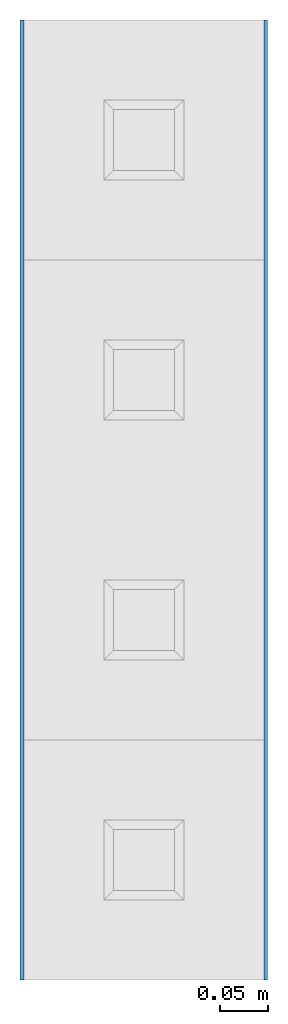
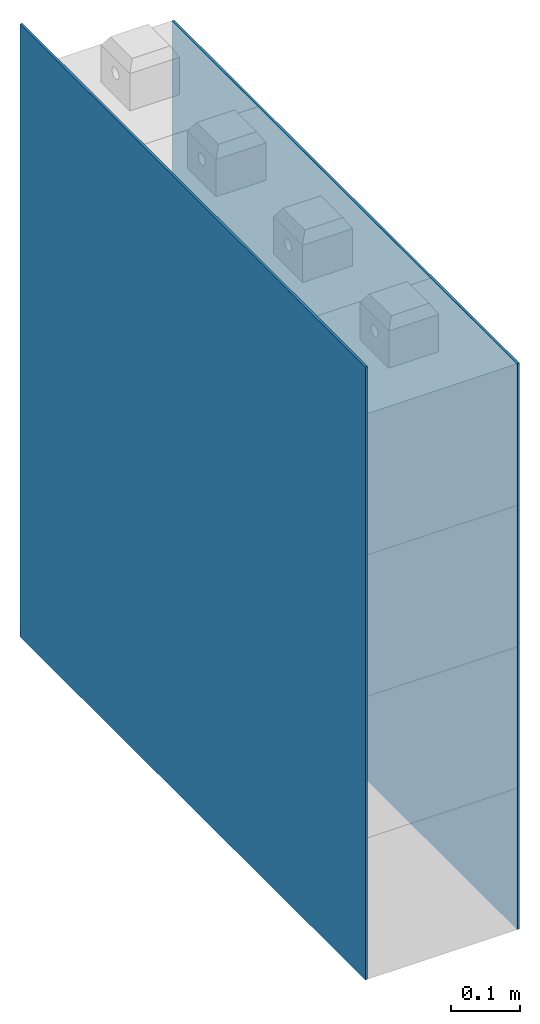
# One storey, incomplete: 2 walls.
"""IFC4 building model written with IfcOpenShell, lengths in centimetres."""

from ifc_helpers import new_model, si_unit, direction, frame, origin, place, context, subcontext, project, spatial, indexed_curve, outline, extrude, material, constituent, constituent_set, type_object, element, save


model = new_model("IFC4")

# Units and contexts
model_context = context("Model", 3, precision=0.001, world=origin(), true_north=direction((0.0, 1.0)))
body_context = subcontext(model_context, "Body", "Model", "MODEL_VIEW")
ifc_project = project(units=[si_unit("LENGTHUNIT", "METRE", prefix="CENTI"), si_unit("AREAUNIT", "SQUARE_METRE"), si_unit("VOLUMEUNIT", "CUBIC_METRE")], contexts=[model_context])

# Site, building, storey
site_placement = place(None, origin())
site = spatial("IfcSite", under=ifc_project, at=site_placement, Name="Default", CompositionType="ELEMENT")
building_placement = place(site_placement, origin())
building = spatial("IfcBuilding", under=site, at=building_placement, CompositionType="ELEMENT")
storey_placement = place(building_placement, frame((0.0, 0.0, -12.0)))
storey = spatial("IfcBuildingStorey", under=building, at=storey_placement, Name="L00__ABOVE Slab", CompositionType="ELEMENT", Elevation=-12.000000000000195)

# Walls
ifc_material = material(Name="_WLL & CLG FINISHES__Spray-cork", Category="플라스틱")
ifc_constituent = constituent(ifc_material, Name="_WLL & CLG FINISHES__Spray-cork", Category="플라스틱", fraction=1.0)
ifc_constituent_set = constituent_set(constituents=[ifc_constituent], Name="Basic Wall:wll__INT FINISH__Spritzkork 0.4cm__TriqBriq, TN.1")
wall_type = type_object("IfcWallType", Name="Walls : Basic Wall : wll__INT FINISH__Spritzkork 0.4cm__TriqBriq, TN.1", PredefinedType="STANDARD", material=ifc_constituent_set)
wall_1_placement = place(storey_placement, frame((4643.349456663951, 1710.4017723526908, 10.0), z_axis=(0.0, 0.0, 1.0), x_axis=(0.0, -1.0, 0.0)))
element("IfcWall", 1, at=wall_1_placement, inside=storey, type_object=wall_type, material=ifc_constituent_set, Name="Walls : Basic Wall : wll__INT FINISH__Spritzkork 0.4cm__TriqBriq, TN.1", PredefinedType="NOTDEFINED", context=body_context, shape_type="SweptSolid", body=[
    extrude(outline(indexed_curve([(100.00000000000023, 0.2000000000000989), (-2.8876456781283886e-16, 0.19999999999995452), (2.8876456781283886e-16, -0.19999999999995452), (100.00000000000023, -0.19999999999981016), (100.00000000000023, 0.2000000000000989)], self_intersect=False)), origin(), (0.0, 0.0, 1.0), 100.00000000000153),
])
wall_2_placement = place(storey_placement, frame((4617.94945666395, 1710.4017723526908, 10.0), z_axis=(0.0, 0.0, 1.0), x_axis=(0.0, -1.0, 0.0)))
element("IfcWall", 2, at=wall_2_placement, inside=storey, type_object=wall_type, material=ifc_constituent_set, Name="Walls : Basic Wall : wll__INT FINISH__Spritzkork 0.4cm__TriqBriq, TN.1", PredefinedType="NOTDEFINED", context=body_context, shape_type="SweptSolid", body=[
    extrude(outline(indexed_curve([(100.00000000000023, 0.2000000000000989), (-2.8876456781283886e-16, 0.19999999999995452), (2.8876456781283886e-16, -0.19999999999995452), (100.00000000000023, -0.19999999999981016), (100.00000000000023, 0.2000000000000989)], self_intersect=False)), origin(), (0.0, 0.0, 1.0), 108.33333333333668),
])

save(model, "model.ifc")
